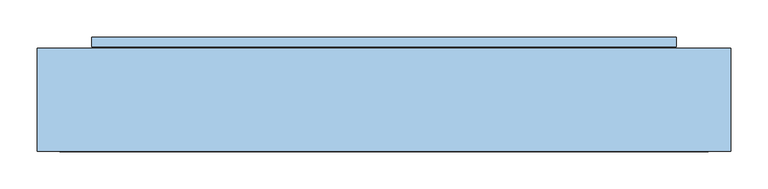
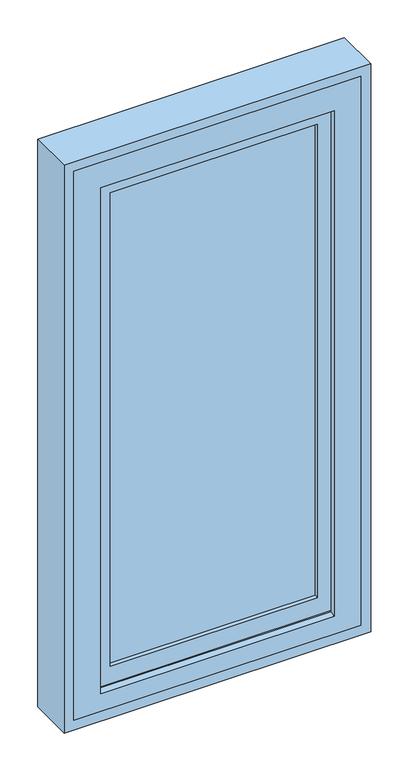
"""IFC4 building model written with IfcOpenShell, lengths in millimetres: window geometry, Окно 1-Распашное - Разделенные наружные и парные внутренние переплеты с остеклением - ГОСТ 11214-2003 : ОД РСП Г1 1760-870-138 ГОСТ 11214-2003."""

from ifc_helpers import new_model, si_unit, frame, origin, place, context, project, spatial, polyline, outline, extrude, faceted_brep, source, transform, mapped, element, save


def window_74172d11(model_context):
    return source(origin(), model_context, "Body", "SolidModel", [
        extrude(outline(polyline([(2620.0, 445.0), (2620.0, -485.0), (800.0, -485.0), (800.0, 445.0), (2620.0, 445.0)]), holes=[polyline([(2590.0, -455.0), (2590.0, 415.0), (830.0, 415.0), (830.0, -455.0), (2590.0, -455.0)])]), frame((0.0, -305.0, 0.0), z_axis=(0.0, 1.0, 0.0), x_axis=(0.0, 0.0, 1.0)), (0.0, 0.0, 1.0), 138.0),
        extrude(outline(polyline([(-354.0, -271.0), (314.0, -271.0), (314.0, -274.0), (-354.0, -274.0), (-354.0, -271.0)])), frame((0.0, 0.0, 931.0), z_axis=(0.0, 0.0, 1.0), x_axis=(1.0, 0.0, 0.0)), (0.0, 0.0, 1.0), 1558.0),
        extrude(outline(polyline([(-367.0, -212.0), (327.0, -212.0), (327.0, -215.0), (-367.0, -215.0), (-367.0, -212.0)])), frame((0.0, 0.0, 918.0), z_axis=(0.0, 0.0, 1.0), x_axis=(1.0, 0.0, 0.0)), (0.0, 0.0, 1.0), 1584.0),
        extrude(outline(polyline([(-367.0, -165.0), (327.0, -165.0), (327.0, -168.0), (-367.0, -168.0), (-367.0, -165.0)])), frame((0.0, 0.0, 918.0), z_axis=(0.0, 0.0, 1.0), x_axis=(1.0, 0.0, 0.0)), (0.0, 0.0, 1.0), 1584.0),
        faceted_brep([(359.0, -259.0, 2534.0), (359.0, -259.0, 886.0), (359.0, -246.0, 886.0), (359.0, -246.0, 2534.0), (-399.0, -246.0, 886.0), (-399.0, -246.0, 2534.0), (294.0, -246.0, 951.0), (294.0, -246.0, 2469.0), (-334.0, -246.0, 2469.0), (-334.0, -246.0, 951.0), (-399.0, -259.0, 886.0), (-399.0, -259.0, 2534.0), (350.0, -259.0, 2525.0), (350.0, -259.0, 895.0), (-390.0, -259.0, 895.0), (-390.0, -259.0, 2525.0), (350.0, -287.0, 2525.0), (350.0, -287.0, 895.0), (-390.0, -287.0, 895.0), (-390.0, -287.0, 2525.0), (294.0, -287.0, 2469.0), (294.0, -287.0, 951.0), (-334.0, -287.0, 951.0), (-334.0, -287.0, 2469.0), (294.0, -271.0, 951.0), (294.0, -271.0, 2469.0), (314.0, -271.0, 931.0), (314.0, -271.0, 2489.0), (-354.0, -271.0, 2489.0), (-354.0, -271.0, 931.0), (-334.0, -271.0, 951.0), (-334.0, -271.0, 2469.0), (-334.0, -274.0, 951.0), (-334.0, -274.0, 2469.0), (294.0, -274.0, 951.0), (294.0, -274.0, 2469.0), (314.0, -274.0, 2489.0), (314.0, -274.0, 931.0), (-354.0, -274.0, 931.0), (-354.0, -274.0, 2489.0)], [[[0, 1, 2, 3]], [[3, 2, 4, 5], [6, 7, 8, 9]], [[1, 10, 4, 2]], [[1, 0, 11, 10], [12, 13, 14, 15]], [[16, 17, 13, 12]], [[17, 18, 14, 13]], [[17, 16, 19, 18], [20, 21, 22, 23]], [[7, 6, 24, 25]], [[26, 27, 28, 29], [25, 24, 30, 31]], [[6, 9, 30, 24]], [[10, 11, 5, 4]], [[18, 19, 15, 14]], [[9, 8, 31, 30]], [[32, 33, 23, 22]], [[34, 32, 22, 21]], [[35, 34, 21, 20]], [[36, 37, 38, 39], [34, 35, 33, 32]], [[27, 26, 37, 36]], [[26, 29, 38, 37]], [[29, 28, 39, 38]], [[11, 0, 3, 5]], [[19, 16, 12, 15]], [[8, 7, 25, 31]], [[33, 35, 20, 23]], [[28, 27, 36, 39]]]),
        faceted_brep([(362.0, -228.0, 2537.0), (362.0, -228.0, 883.0), (362.0, -196.0, 883.0), (362.0, -196.0, 2537.0), (-402.0, -196.0, 883.0), (-402.0, -196.0, 2537.0), (307.0, -196.0, 938.0), (307.0, -196.0, 2482.0), (-347.0, -196.0, 2482.0), (-347.0, -196.0, 938.0), (-402.0, -228.0, 883.0), (-402.0, -228.0, 2537.0), (307.0, -228.0, 2482.0), (307.0, -228.0, 938.0), (-347.0, -228.0, 938.0), (-347.0, -228.0, 2482.0), (307.0, -212.0, 938.0), (307.0, -212.0, 2482.0), (327.0, -212.0, 918.0), (327.0, -212.0, 2502.0), (-367.0, -212.0, 2502.0), (-367.0, -212.0, 918.0), (-347.0, -212.0, 938.0), (-347.0, -212.0, 2482.0), (-347.0, -215.0, 938.0), (-347.0, -215.0, 2482.0), (307.0, -215.0, 938.0), (307.0, -215.0, 2482.0), (327.0, -215.0, 2502.0), (327.0, -215.0, 918.0), (-367.0, -215.0, 918.0), (-367.0, -215.0, 2502.0)], [[[0, 1, 2, 3]], [[3, 2, 4, 5], [6, 7, 8, 9]], [[1, 10, 4, 2]], [[1, 0, 11, 10], [12, 13, 14, 15]], [[7, 6, 16, 17]], [[18, 19, 20, 21], [17, 16, 22, 23]], [[6, 9, 22, 16]], [[10, 11, 5, 4]], [[9, 8, 23, 22]], [[24, 25, 15, 14]], [[26, 24, 14, 13]], [[27, 26, 13, 12]], [[28, 29, 30, 31], [26, 27, 25, 24]], [[19, 18, 29, 28]], [[18, 21, 30, 29]], [[21, 20, 31, 30]], [[11, 0, 3, 5]], [[8, 7, 17, 23]], [[25, 27, 12, 15]], [[20, 19, 28, 31]]]),
        faceted_brep([(372.0, -165.0, 2547.0), (372.0, -165.0, 873.0), (372.0, -152.0, 873.0), (372.0, -152.0, 2547.0), (-412.0, -152.0, 873.0), (-412.0, -152.0, 2547.0), (307.0, -152.0, 938.0), (307.0, -152.0, 2482.0), (-347.0, -152.0, 2482.0), (-347.0, -152.0, 938.0), (-412.0, -165.0, 873.0), (-412.0, -165.0, 2547.0), (362.0, -165.0, 2537.0), (362.0, -165.0, 883.0), (-402.0, -165.0, 883.0), (-402.0, -165.0, 2537.0), (362.0, -194.0, 2537.0), (362.0, -194.0, 883.0), (-402.0, -194.0, 883.0), (-402.0, -194.0, 2537.0), (307.0, -194.0, 2482.0), (307.0, -194.0, 938.0), (-347.0, -194.0, 938.0), (-347.0, -194.0, 2482.0), (307.0, -165.0, 938.0), (307.0, -165.0, 2482.0), (327.0, -165.0, 918.0), (327.0, -165.0, 2502.0), (-367.0, -165.0, 2502.0), (-367.0, -165.0, 918.0), (-347.0, -165.0, 938.0), (-347.0, -165.0, 2482.0), (-347.0, -168.0, 938.0), (-347.0, -168.0, 2482.0), (307.0, -168.0, 938.0), (307.0, -168.0, 2482.0), (327.0, -168.0, 2502.0), (327.0, -168.0, 918.0), (-367.0, -168.0, 918.0), (-367.0, -168.0, 2502.0)], [[[0, 1, 2, 3]], [[3, 2, 4, 5], [6, 7, 8, 9]], [[1, 10, 4, 2]], [[1, 0, 11, 10], [12, 13, 14, 15]], [[16, 17, 13, 12]], [[17, 18, 14, 13]], [[17, 16, 19, 18], [20, 21, 22, 23]], [[7, 6, 24, 25]], [[26, 27, 28, 29], [25, 24, 30, 31]], [[6, 9, 30, 24]], [[10, 11, 5, 4]], [[18, 19, 15, 14]], [[9, 8, 31, 30]], [[32, 33, 23, 22]], [[34, 32, 22, 21]], [[35, 34, 21, 20]], [[36, 37, 38, 39], [34, 35, 33, 32]], [[27, 26, 37, 36]], [[26, 29, 38, 37]], [[29, 28, 39, 38]], [[11, 0, 3, 5]], [[19, 16, 12, 15]], [[8, 7, 25, 31]], [[33, 35, 20, 23]], [[28, 27, 36, 39]]]),
        faceted_brep([(415.0, -305.0, 830.0), (-455.0, -305.0, 830.0), (-455.0, -167.0, 830.0), (415.0, -167.0, 830.0), (415.0, -167.0, 2590.0), (415.0, -305.0, 2590.0), (-455.0, -167.0, 2590.0), (364.0, -167.0, 2539.0), (-404.0, -167.0, 2539.0), (-404.0, -167.0, 881.0), (364.0, -167.0, 881.0), (-455.0, -305.0, 2590.0), (-374.0, -305.0, 2509.0), (334.0, -305.0, 2509.0), (334.0, -305.0, 887.1764763), (-374.0, -305.0, 887.1764763), (-374.0, -289.0, 893.0), (-374.0, -289.0, 2509.0), (334.0, -289.0, 893.0), (334.0, -289.0, 2509.0), (364.0, -261.0, 881.0), (364.0, -261.0, 2539.0), (-404.0, -261.0, 881.0), (-404.0, -261.0, 2539.0), (352.0, -261.0, 2527.0), (-392.0, -261.0, 2527.0), (-392.0, -261.0, 893.0), (352.0, -261.0, 893.0), (352.0, -289.0, 893.0), (352.0, -289.0, 2527.0), (-392.0, -289.0, 893.0), (-392.0, -289.0, 2527.0)], [[[0, 1, 2, 3]], [[4, 5, 0, 3]], [[2, 6, 4, 3], [7, 8, 9, 10]], [[2, 1, 11, 6]], [[0, 5, 11, 1], [12, 13, 14, 15]], [[12, 15, 16, 17]], [[14, 18, 16, 15]], [[19, 18, 14, 13]], [[7, 10, 20, 21]], [[9, 22, 20, 10]], [[22, 9, 8, 23]], [[21, 20, 22, 23], [24, 25, 26, 27]], [[24, 27, 28, 29]], [[26, 30, 16, 18, 28, 27]], [[31, 30, 26, 25]], [[29, 28, 18, 19, 17, 16, 30, 31]], [[12, 17, 19, 13]], [[5, 4, 6, 11]], [[7, 21, 23, 8]], [[24, 29, 31, 25]]]),
    ])


if __name__ == "__main__":
    model = new_model("IFC4")
    model_context = context("Model", 3, world=origin())
    ifc_project = project(units=[si_unit("LENGTHUNIT", "METRE", prefix="MILLI")], contexts=[model_context])
    site = spatial("IfcSite", under=ifc_project)
    building = spatial("IfcBuilding", under=site)
    placement = place(None, origin())
    window_shape = window_74172d11(model_context)
    element("IfcWindow", 1, ObjectType="Окно 1-Распашное - Разделенные наружные и парные внутренние переплеты с остеклением - ГОСТ 11214-2003 : ОД РСП Г1 1760-870-138 ГОСТ 11214-2003", at=placement, inside=building, context=model_context, shape_type="MappedRepresentation", body=[
        mapped(window_shape, transform((0.0, 0.0, 0.0), x_axis=(1.0, 0.0, 0.0), y_axis=(0.0, 1.0, 0.0), z_axis=(0.0, 0.0, 1.0))),
    ])
    save(model, "model.ifc")
